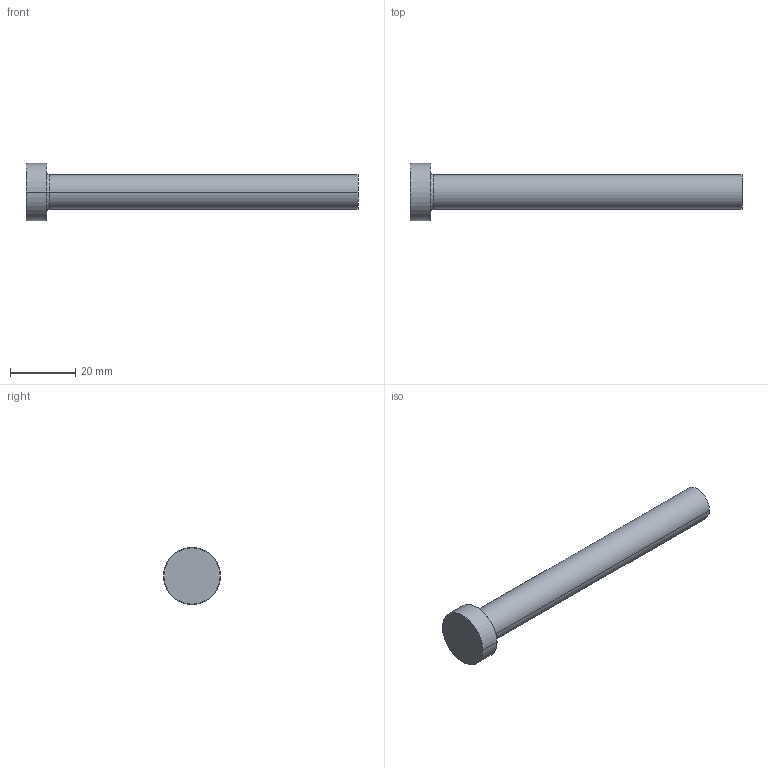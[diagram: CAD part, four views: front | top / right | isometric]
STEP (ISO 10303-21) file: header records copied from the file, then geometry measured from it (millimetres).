
FILE_DESCRIPTION (( 'STEP AP214' ), '1' );
FILE_NAME ('P28-4.STEP', '2020-03-12T10:12:52', ( '' ), ( '' ), 'SwSTEP 2.0', 'SolidWorks 2018', '' );
FILE_SCHEMA (( 'AUTOMOTIVE_DESIGN' ));
Length unit declared in the file: inch
Products named in the file (1): P28-4
Bounding box: 101.6 x 17.46 x 17.46 mm (x, y, z)
Volume: 10102.3 mm3; surface area: 4014.3 mm2
Topology: 1 solids, 1 shells, 13 faces, 24 edges, 14 vertices
Faces by surface type: cone 4, cylinder 4, plane 3, torus 2
Entity records: 366 total; most frequent: DIRECTION 68, CARTESIAN_POINT 52, ORIENTED_EDGE 48, AXIS2_PLACEMENT_3D 30, EDGE_CURVE 24, CIRCLE 16, VERTEX_POINT 14, EDGE_LOOP 14
